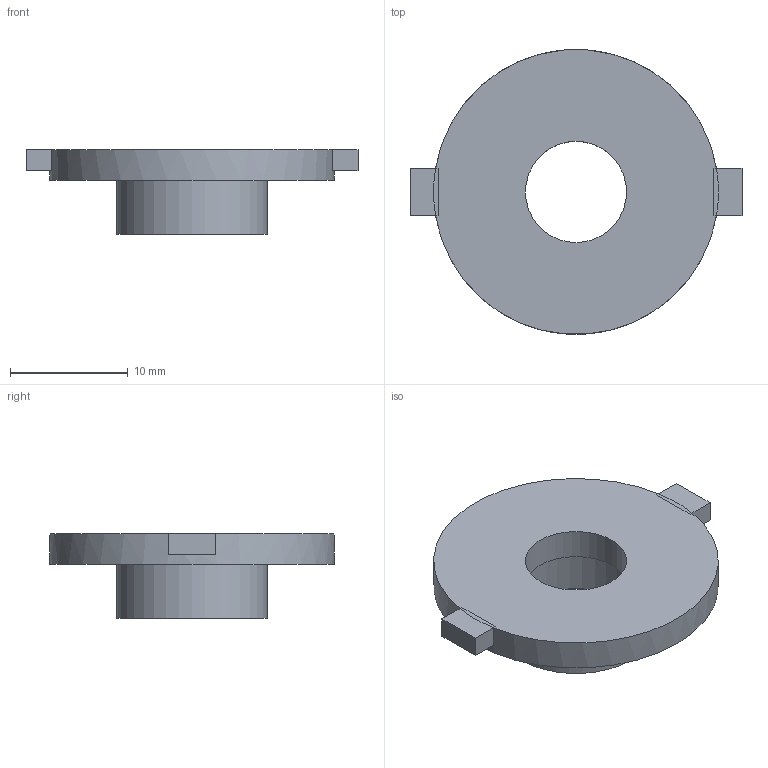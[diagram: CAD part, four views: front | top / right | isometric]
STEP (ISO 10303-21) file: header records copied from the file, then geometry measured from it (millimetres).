
FILE_DESCRIPTION(('Open CASCADE Model'),'2;1');
FILE_NAME('Open CASCADE Shape Model','2026-09-24T17:43:03',('Author'),( 'Open CASCADE'),'Open CASCADE STEP processor 7.8','Open CASCADE 7.8' ,'Unknown');
FILE_SCHEMA(('AUTOMOTIVE_DESIGN { 1 0 10303 214 1 1 1 1 }'));
Length unit declared in the file: millimetre
Products named in the file (1): Open CASCADE STEP translator 7.8 45
Bounding box: 28.2 x 24.2 x 7.2 mm (x, y, z)
Volume: 1132.2 mm3; surface area: 1480.8 mm2
Topology: 1 solids, 1 shells, 20 faces, 45 edges, 29 vertices
Faces by surface type: plane 16, cylinder 4
Full cylindrical faces by diameter (mm): 8.6 x1, 12.16 x1, 12.8 x1, 24.2 x1
Entity records: 1151 total; most frequent: CARTESIAN_POINT 193, DIRECTION 184, LINE 94, VECTOR 94, ORIENTED_EDGE 90, PCURVE 90, DEFINITIONAL_REPRESENTATION 90, EDGE_CURVE 45
